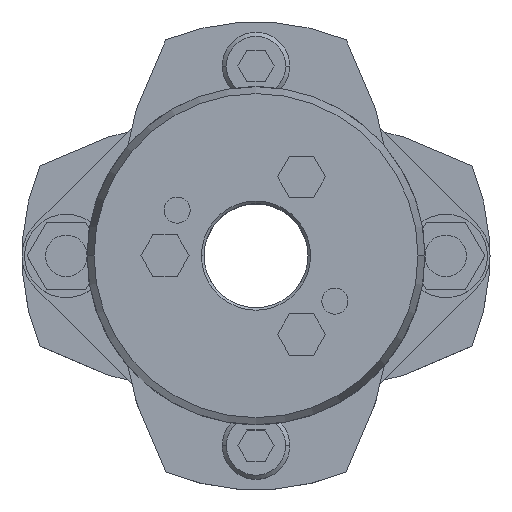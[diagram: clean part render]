
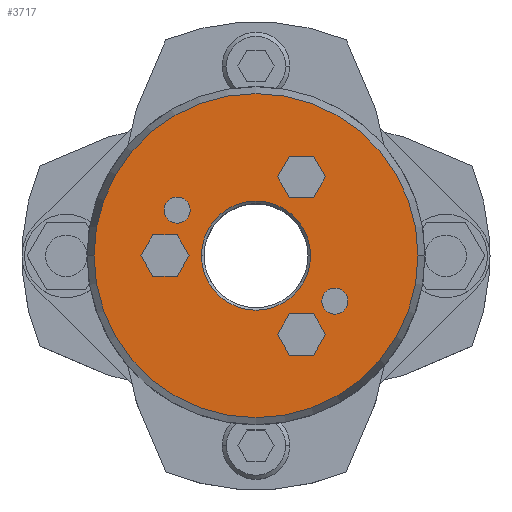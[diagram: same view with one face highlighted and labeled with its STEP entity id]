
A CAD part, top view. The second image highlights one B-rep face of the part: STEP entity #3717.
In plain terms, the highlighted planar face has unit normal (0, 0, 1).
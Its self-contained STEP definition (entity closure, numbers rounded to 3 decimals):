
#1471=CARTESIAN_POINT('',(-10.5,0.,39.25));
#1472=VERTEX_POINT('',#1471);
#1488=CARTESIAN_POINT('',(10.5,0.,39.25));
#1489=VERTEX_POINT('',#1488);
#1496=CARTESIAN_POINT('',(0.,0.,39.25));
#1497=DIRECTION('',(0.0,0.0,1.0));
#1498=DIRECTION('',(-1.0,0.0,0.0));
#1499=AXIS2_PLACEMENT_3D('',#1496,#1497,#1498);
#1500=CIRCLE('',#1499,10.5);
#1501=EDGE_CURVE('',#1489,#1472,#1500,.T.);
#1617=CARTESIAN_POINT('',(31.16,0.,39.25));
#1618=VERTEX_POINT('',#1617);
#1627=CARTESIAN_POINT('',(-31.16,0.,39.25));
#1628=VERTEX_POINT('',#1627);
#1629=CARTESIAN_POINT('',(0.,0.,39.25));
#1630=DIRECTION('',(0.0,0.0,-1.0));
#1631=DIRECTION('',(1.0,0.0,0.0));
#1632=AXIS2_PLACEMENT_3D('',#1629,#1630,#1631);
#1633=CIRCLE('',#1632,31.16);
#1634=EDGE_CURVE('',#1618,#1628,#1633,.T.);
#1951=CARTESIAN_POINT('',(12.655,-8.75,39.25));
#1952=VERTEX_POINT('',#1951);
#1968=CARTESIAN_POINT('',(17.655,-8.75,39.25));
#1969=VERTEX_POINT('',#1968);
#1976=CARTESIAN_POINT('',(15.155,-8.75,39.25));
#1977=DIRECTION('',(0.0,0.0,-1.0));
#1978=DIRECTION('',(-1.0,0.0,0.0));
#1979=AXIS2_PLACEMENT_3D('',#1976,#1977,#1978);
#1980=CIRCLE('',#1979,2.5);
#1981=EDGE_CURVE('',#1952,#1969,#1980,.T.);
#1993=CARTESIAN_POINT('',(-17.655,8.75,39.25));
#1994=VERTEX_POINT('',#1993);
#2010=CARTESIAN_POINT('',(-12.655,8.75,39.25));
#2011=VERTEX_POINT('',#2010);
#2018=CARTESIAN_POINT('',(-15.155,8.75,39.25));
#2019=DIRECTION('',(0.0,0.0,-1.0));
#2020=DIRECTION('',(-1.0,0.0,0.0));
#2021=AXIS2_PLACEMENT_3D('',#2018,#2019,#2020);
#2022=CIRCLE('',#2021,2.5);
#2023=EDGE_CURVE('',#1994,#2011,#2022,.T.);
#2106=CARTESIAN_POINT('',(-15.155,8.75,39.25));
#2107=DIRECTION('',(0.0,0.0,-1.0));
#2108=DIRECTION('',(-1.0,0.0,0.0));
#2109=AXIS2_PLACEMENT_3D('',#2106,#2107,#2108);
#2110=CIRCLE('',#2109,2.5);
#2111=EDGE_CURVE('',#2011,#1994,#2110,.T.);
#2140=CARTESIAN_POINT('',(15.155,-8.75,39.25));
#2141=DIRECTION('',(0.0,0.0,-1.0));
#2142=DIRECTION('',(-1.0,0.0,0.0));
#2143=AXIS2_PLACEMENT_3D('',#2140,#2141,#2142);
#2144=CIRCLE('',#2143,2.5);
#2145=EDGE_CURVE('',#1969,#1952,#2144,.T.);
#2183=CARTESIAN_POINT('',(4.131,15.155,39.25));
#2184=VERTEX_POINT('',#2183);
#2191=CARTESIAN_POINT('',(6.441,11.155,39.25));
#2192=VERTEX_POINT('',#2191);
#2193=CARTESIAN_POINT('',(6.441,11.155,39.25));
#2194=DIRECTION('',(-0.5,0.866,0.0));
#2195=VECTOR('',#2194,4.619);
#2196=LINE('',#2193,#2195);
#2197=EDGE_CURVE('',#2192,#2184,#2196,.T.);
#2221=CARTESIAN_POINT('',(6.441,19.155,39.25));
#2222=VERTEX_POINT('',#2221);
#2229=CARTESIAN_POINT('',(4.131,15.155,39.25));
#2230=DIRECTION('',(0.5,0.866,0.0));
#2231=VECTOR('',#2230,4.619);
#2232=LINE('',#2229,#2231);
#2233=EDGE_CURVE('',#2184,#2222,#2232,.T.);
#2252=CARTESIAN_POINT('',(11.059,19.155,39.25));
#2253=VERTEX_POINT('',#2252);
#2260=CARTESIAN_POINT('',(6.441,19.155,39.25));
#2261=DIRECTION('',(1.0,0.0,0.0));
#2262=VECTOR('',#2261,4.619);
#2263=LINE('',#2260,#2262);
#2264=EDGE_CURVE('',#2222,#2253,#2263,.T.);
#2283=CARTESIAN_POINT('',(13.369,15.155,39.25));
#2284=VERTEX_POINT('',#2283);
#2291=CARTESIAN_POINT('',(11.059,19.155,39.25));
#2292=DIRECTION('',(0.5,-0.866,0.0));
#2293=VECTOR('',#2292,4.619);
#2294=LINE('',#2291,#2293);
#2295=EDGE_CURVE('',#2253,#2284,#2294,.T.);
#2314=CARTESIAN_POINT('',(11.059,11.155,39.25));
#2315=VERTEX_POINT('',#2314);
#2322=CARTESIAN_POINT('',(13.369,15.155,39.25));
#2323=DIRECTION('',(-0.5,-0.866,0.0));
#2324=VECTOR('',#2323,4.619);
#2325=LINE('',#2322,#2324);
#2326=EDGE_CURVE('',#2284,#2315,#2325,.T.);
#2344=CARTESIAN_POINT('',(11.059,11.155,39.25));
#2345=DIRECTION('',(-1.0,0.0,0.0));
#2346=VECTOR('',#2345,4.619);
#2347=LINE('',#2344,#2346);
#2348=EDGE_CURVE('',#2315,#2192,#2347,.T.);
#2383=CARTESIAN_POINT('',(-22.119,0.,39.25));
#2384=VERTEX_POINT('',#2383);
#2391=CARTESIAN_POINT('',(-19.809,-4.,39.25));
#2392=VERTEX_POINT('',#2391);
#2393=CARTESIAN_POINT('',(-19.809,-4.,39.25));
#2394=DIRECTION('',(-0.5,0.866,0.0));
#2395=VECTOR('',#2394,4.619);
#2396=LINE('',#2393,#2395);
#2397=EDGE_CURVE('',#2392,#2384,#2396,.T.);
#2421=CARTESIAN_POINT('',(-19.809,4.,39.25));
#2422=VERTEX_POINT('',#2421);
#2429=CARTESIAN_POINT('',(-22.119,0.,39.25));
#2430=DIRECTION('',(0.5,0.866,0.0));
#2431=VECTOR('',#2430,4.619);
#2432=LINE('',#2429,#2431);
#2433=EDGE_CURVE('',#2384,#2422,#2432,.T.);
#2452=CARTESIAN_POINT('',(-15.191,4.,39.25));
#2453=VERTEX_POINT('',#2452);
#2460=CARTESIAN_POINT('',(-19.809,4.,39.25));
#2461=DIRECTION('',(1.0,0.0,0.0));
#2462=VECTOR('',#2461,4.619);
#2463=LINE('',#2460,#2462);
#2464=EDGE_CURVE('',#2422,#2453,#2463,.T.);
#2483=CARTESIAN_POINT('',(-12.881,0.,39.25));
#2484=VERTEX_POINT('',#2483);
#2491=CARTESIAN_POINT('',(-15.191,4.,39.25));
#2492=DIRECTION('',(0.5,-0.866,0.0));
#2493=VECTOR('',#2492,4.619);
#2494=LINE('',#2491,#2493);
#2495=EDGE_CURVE('',#2453,#2484,#2494,.T.);
#2514=CARTESIAN_POINT('',(-15.191,-4.,39.25));
#2515=VERTEX_POINT('',#2514);
#2522=CARTESIAN_POINT('',(-12.881,0.,39.25));
#2523=DIRECTION('',(-0.5,-0.866,0.0));
#2524=VECTOR('',#2523,4.619);
#2525=LINE('',#2522,#2524);
#2526=EDGE_CURVE('',#2484,#2515,#2525,.T.);
#2544=CARTESIAN_POINT('',(-15.191,-4.,39.25));
#2545=DIRECTION('',(-1.0,0.0,0.0));
#2546=VECTOR('',#2545,4.619);
#2547=LINE('',#2544,#2546);
#2548=EDGE_CURVE('',#2515,#2392,#2547,.T.);
#2583=CARTESIAN_POINT('',(4.131,-15.155,39.25));
#2584=VERTEX_POINT('',#2583);
#2591=CARTESIAN_POINT('',(6.441,-19.155,39.25));
#2592=VERTEX_POINT('',#2591);
#2593=CARTESIAN_POINT('',(6.441,-19.155,39.25));
#2594=DIRECTION('',(-0.5,0.866,0.0));
#2595=VECTOR('',#2594,4.619);
#2596=LINE('',#2593,#2595);
#2597=EDGE_CURVE('',#2592,#2584,#2596,.T.);
#2621=CARTESIAN_POINT('',(6.441,-11.155,39.25));
#2622=VERTEX_POINT('',#2621);
#2629=CARTESIAN_POINT('',(4.131,-15.155,39.25));
#2630=DIRECTION('',(0.5,0.866,0.0));
#2631=VECTOR('',#2630,4.619);
#2632=LINE('',#2629,#2631);
#2633=EDGE_CURVE('',#2584,#2622,#2632,.T.);
#2652=CARTESIAN_POINT('',(11.059,-11.155,39.25));
#2653=VERTEX_POINT('',#2652);
#2660=CARTESIAN_POINT('',(6.441,-11.155,39.25));
#2661=DIRECTION('',(1.0,0.0,0.0));
#2662=VECTOR('',#2661,4.619);
#2663=LINE('',#2660,#2662);
#2664=EDGE_CURVE('',#2622,#2653,#2663,.T.);
#2683=CARTESIAN_POINT('',(13.369,-15.155,39.25));
#2684=VERTEX_POINT('',#2683);
#2691=CARTESIAN_POINT('',(11.059,-11.155,39.25));
#2692=DIRECTION('',(0.5,-0.866,0.0));
#2693=VECTOR('',#2692,4.619);
#2694=LINE('',#2691,#2693);
#2695=EDGE_CURVE('',#2653,#2684,#2694,.T.);
#2714=CARTESIAN_POINT('',(11.059,-19.155,39.25));
#2715=VERTEX_POINT('',#2714);
#2722=CARTESIAN_POINT('',(13.369,-15.155,39.25));
#2723=DIRECTION('',(-0.5,-0.866,0.0));
#2724=VECTOR('',#2723,4.619);
#2725=LINE('',#2722,#2724);
#2726=EDGE_CURVE('',#2684,#2715,#2725,.T.);
#2744=CARTESIAN_POINT('',(11.059,-19.155,39.25));
#2745=DIRECTION('',(-1.0,0.0,0.0));
#2746=VECTOR('',#2745,4.619);
#2747=LINE('',#2744,#2746);
#2748=EDGE_CURVE('',#2715,#2592,#2747,.T.);
#3656=CARTESIAN_POINT('',(0.,0.,39.25));
#3657=DIRECTION('',(0.0,0.0,-1.0));
#3658=DIRECTION('',(1.0,0.0,0.0));
#3659=AXIS2_PLACEMENT_3D('',#3656,#3657,#3658);
#3660=CIRCLE('',#3659,31.16);
#3661=EDGE_CURVE('',#1628,#1618,#3660,.T.);
#3666=CARTESIAN_POINT('',(-2.682,0.,39.25));
#3667=DIRECTION('',(0.0,0.0,1.0));
#3668=DIRECTION('',(-1.0,0.0,0.0));
#3669=AXIS2_PLACEMENT_3D('',#3666,#3667,#3668);
#3670=PLANE('',#3669);
#3671=ORIENTED_EDGE('',*,*,#3661,.F.);
#3672=ORIENTED_EDGE('',*,*,#1634,.F.);
#3673=EDGE_LOOP('',(#3671,#3672));
#3674=FACE_OUTER_BOUND('',#3673,.T.);
#3675=ORIENTED_EDGE('',*,*,#2023,.T.);
#3676=ORIENTED_EDGE('',*,*,#2111,.T.);
#3677=EDGE_LOOP('',(#3675,#3676));
#3678=FACE_BOUND('',#3677,.T.);
#3679=ORIENTED_EDGE('',*,*,#1981,.T.);
#3680=ORIENTED_EDGE('',*,*,#2145,.T.);
#3681=EDGE_LOOP('',(#3679,#3680));
#3682=FACE_BOUND('',#3681,.T.);
#3683=ORIENTED_EDGE('',*,*,#2197,.T.);
#3684=ORIENTED_EDGE('',*,*,#2233,.T.);
#3685=ORIENTED_EDGE('',*,*,#2264,.T.);
#3686=ORIENTED_EDGE('',*,*,#2295,.T.);
#3687=ORIENTED_EDGE('',*,*,#2326,.T.);
#3688=ORIENTED_EDGE('',*,*,#2348,.T.);
#3689=EDGE_LOOP('',(#3683,#3684,#3685,#3686,#3687,#3688));
#3690=FACE_BOUND('',#3689,.T.);
#3691=ORIENTED_EDGE('',*,*,#2397,.T.);
#3692=ORIENTED_EDGE('',*,*,#2433,.T.);
#3693=ORIENTED_EDGE('',*,*,#2464,.T.);
#3694=ORIENTED_EDGE('',*,*,#2495,.T.);
#3695=ORIENTED_EDGE('',*,*,#2526,.T.);
#3696=ORIENTED_EDGE('',*,*,#2548,.T.);
#3697=EDGE_LOOP('',(#3691,#3692,#3693,#3694,#3695,#3696));
#3698=FACE_BOUND('',#3697,.T.);
#3699=ORIENTED_EDGE('',*,*,#2597,.T.);
#3700=ORIENTED_EDGE('',*,*,#2633,.T.);
#3701=ORIENTED_EDGE('',*,*,#2664,.T.);
#3702=ORIENTED_EDGE('',*,*,#2695,.T.);
#3703=ORIENTED_EDGE('',*,*,#2726,.T.);
#3704=ORIENTED_EDGE('',*,*,#2748,.T.);
#3705=EDGE_LOOP('',(#3699,#3700,#3701,#3702,#3703,#3704));
#3706=FACE_BOUND('',#3705,.T.);
#3707=ORIENTED_EDGE('',*,*,#1501,.F.);
#3708=CARTESIAN_POINT('',(0.,0.,39.25));
#3709=DIRECTION('',(0.0,0.0,1.0));
#3710=DIRECTION('',(-1.0,0.0,0.0));
#3711=AXIS2_PLACEMENT_3D('',#3708,#3709,#3710);
#3712=CIRCLE('',#3711,10.5);
#3713=EDGE_CURVE('',#1472,#1489,#3712,.T.);
#3714=ORIENTED_EDGE('',*,*,#3713,.F.);
#3715=EDGE_LOOP('',(#3707,#3714));
#3716=FACE_BOUND('',#3715,.T.);
#3717=ADVANCED_FACE('',(#3674,#3678,#3682,#3690,#3698,#3706,#3716),#3670,.T.);
